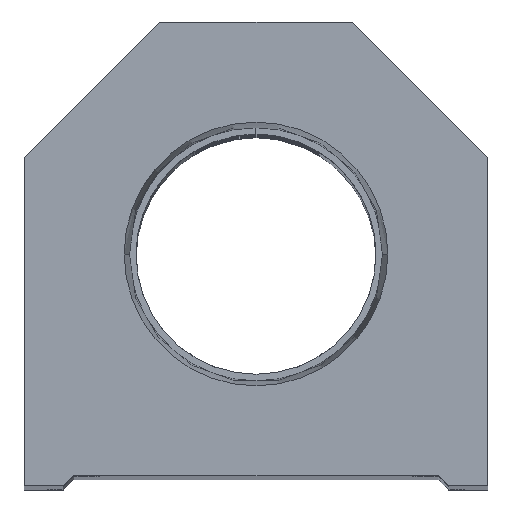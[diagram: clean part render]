
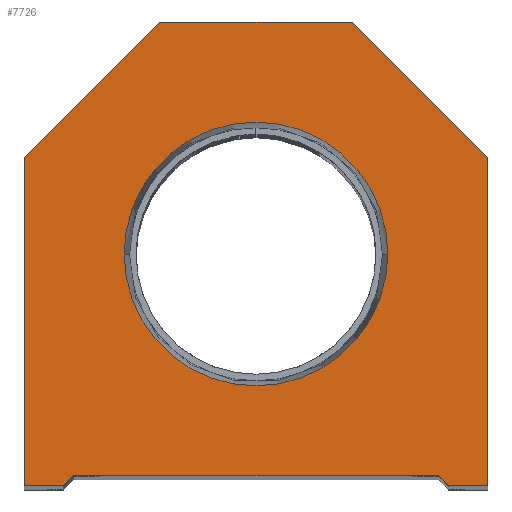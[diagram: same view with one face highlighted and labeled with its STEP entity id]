
A CAD part, top view. The second image highlights one B-rep face of the part: STEP entity #7726.
In plain terms, the highlighted planar face has unit normal (0, 0, 1).
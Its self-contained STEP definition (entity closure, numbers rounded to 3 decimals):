
#3 = CIRCLE ( 'NONE', #5110, 12.647 ) ;
#599 = CARTESIAN_POINT ( 'NONE',  ( 22.25, 0., 0. ) ) ;
#605 = FACE_BOUND ( 'NONE', #15569, .T. ) ;
#693 = ORIENTED_EDGE ( 'NONE', *, *, #7482, .T. ) ;
#792 = VECTOR ( 'NONE', #9333, 1000. ) ;
#1219 = EDGE_CURVE ( 'NONE', #14353, #14734, #13792, .T. ) ;
#1255 = LINE ( 'NONE', #6683, #11766 ) ;
#1603 = VECTOR ( 'NONE', #2753, 1000. ) ;
#1627 = VERTEX_POINT ( 'NONE', #8988 ) ;
#1739 = DIRECTION ( 'NONE',  ( 1., 0., 0. ) ) ;
#1835 = CARTESIAN_POINT ( 'NONE',  ( 9.25, 9.25, 0. ) ) ;
#1952 = CARTESIAN_POINT ( 'NONE',  ( 22.25, 0., 0. ) ) ;
#2162 = DIRECTION ( 'NONE',  ( 0., -1., 0. ) ) ;
#2272 = FACE_OUTER_BOUND ( 'NONE', #13198, .T. ) ;
#2358 = DIRECTION ( 'NONE',  ( 1., 0., 0. ) ) ;
#2564 = VECTOR ( 'NONE', #5935, 1000. ) ;
#2753 = DIRECTION ( 'NONE',  ( 1., 0., 0. ) ) ;
#2767 = DIRECTION ( 'NONE',  ( 1., 0., 0. ) ) ;
#2785 = DIRECTION ( 'NONE',  ( -0.707, 0.707, 0. ) ) ;
#2849 = ORIENTED_EDGE ( 'NONE', *, *, #1219, .T. ) ;
#2855 = AXIS2_PLACEMENT_3D ( 'NONE', #11738, #3606, #2358 ) ;
#2915 = LINE ( 'NONE', #5754, #2564 ) ;
#3258 = EDGE_CURVE ( 'NONE', #4635, #10632, #15275, .T. ) ;
#3331 = ORIENTED_EDGE ( 'NONE', *, *, #5513, .T. ) ;
#3606 = DIRECTION ( 'NONE',  ( 0., 0., 1. ) ) ;
#4075 = CARTESIAN_POINT ( 'NONE',  ( 9.25, 44.5, 0. ) ) ;
#4217 = EDGE_CURVE ( 'NONE', #15020, #13432, #16037, .T. ) ;
#4315 = CARTESIAN_POINT ( 'NONE',  ( -22.25, 31.5, 0. ) ) ;
#4465 = CARTESIAN_POINT ( 'NONE',  ( -22.25, 0., 0. ) ) ;
#4635 = VERTEX_POINT ( 'NONE', #7348 ) ;
#5079 = EDGE_CURVE ( 'NONE', #8772, #7157, #3, .T. ) ;
#5110 = AXIS2_PLACEMENT_3D ( 'NONE', #9687, #16460, #2767 ) ;
#5277 = CARTESIAN_POINT ( 'NONE',  ( 22.25, 31.5, 0. ) ) ;
#5513 = EDGE_CURVE ( 'NONE', #17018, #1627, #11198, .T. ) ;
#5604 = VECTOR ( 'NONE', #1739, 1000. ) ;
#5754 = CARTESIAN_POINT ( 'NONE',  ( -9.25, 9.25, 0. ) ) ;
#5935 = DIRECTION ( 'NONE',  ( 0.707, 0.707, 0. ) ) ;
#6168 = CARTESIAN_POINT ( 'NONE',  ( 9.25, 44.5, 0. ) ) ;
#6287 = EDGE_CURVE ( 'NONE', #9124, #4635, #9509, .T. ) ;
#6408 = ORIENTED_EDGE ( 'NONE', *, *, #6287, .T. ) ;
#6560 = DIRECTION ( 'NONE',  ( 1., 0., 0. ) ) ;
#6622 = CARTESIAN_POINT ( 'NONE',  ( 12.647, 22.25, 0. ) ) ;
#6623 = VECTOR ( 'NONE', #9910, 1000. ) ;
#6624 = LINE ( 'NONE', #5277, #15161 ) ;
#6629 = CARTESIAN_POINT ( 'NONE',  ( 18.5, 0., 0. ) ) ;
#6683 = CARTESIAN_POINT ( 'NONE',  ( -22.25, 31.5, 0. ) ) ;
#6779 = ORIENTED_EDGE ( 'NONE', *, *, #15482, .T. ) ;
#6859 = ORIENTED_EDGE ( 'NONE', *, *, #15483, .T. ) ;
#7028 = DIRECTION ( 'NONE',  ( -1., 0., 0. ) ) ;
#7157 = VERTEX_POINT ( 'NONE', #11962 ) ;
#7348 = CARTESIAN_POINT ( 'NONE',  ( 17.5, 1., 0. ) ) ;
#7482 = EDGE_CURVE ( 'NONE', #16921, #9124, #2915, .T. ) ;
#7726 = ADVANCED_FACE ( 'NONE', ( #605, #2272 ), #14128, .T. ) ;
#7906 = EDGE_CURVE ( 'NONE', #7157, #8772, #16411, .T. ) ;
#8177 = CARTESIAN_POINT ( 'NONE',  ( -17.5, 0., 0. ) ) ;
#8275 = CARTESIAN_POINT ( 'NONE',  ( -17.5, 1., 0. ) ) ;
#8772 = VERTEX_POINT ( 'NONE', #6622 ) ;
#8891 = ORIENTED_EDGE ( 'NONE', *, *, #4217, .T. ) ;
#8988 = CARTESIAN_POINT ( 'NONE',  ( 22.25, 31.5, 0. ) ) ;
#9124 = VERTEX_POINT ( 'NONE', #16925 ) ;
#9333 = DIRECTION ( 'NONE',  ( 1., 0., 0. ) ) ;
#9386 = ORIENTED_EDGE ( 'NONE', *, *, #7906, .F. ) ;
#9509 = LINE ( 'NONE', #8275, #792 ) ;
#9687 = CARTESIAN_POINT ( 'NONE',  ( 0., 22.25, 0. ) ) ;
#9905 = DIRECTION ( 'NONE',  ( 0., 1., 0. ) ) ;
#9910 = DIRECTION ( 'NONE',  ( 0.707, -0.707, 0. ) ) ;
#9981 = LINE ( 'NONE', #13841, #5604 ) ;
#10073 = ORIENTED_EDGE ( 'NONE', *, *, #5079, .F. ) ;
#10632 = VERTEX_POINT ( 'NONE', #6629 ) ;
#11082 = ORIENTED_EDGE ( 'NONE', *, *, #3258, .T. ) ;
#11198 = LINE ( 'NONE', #599, #16632 ) ;
#11623 = ORIENTED_EDGE ( 'NONE', *, *, #16539, .T. ) ;
#11738 = CARTESIAN_POINT ( 'NONE',  ( 0., 0., 0. ) ) ;
#11766 = VECTOR ( 'NONE', #12047, 1000. ) ;
#11962 = CARTESIAN_POINT ( 'NONE',  ( -12.647, 22.25, 0. ) ) ;
#12004 = CARTESIAN_POINT ( 'NONE',  ( 0., 22.25, 0. ) ) ;
#12047 = DIRECTION ( 'NONE',  ( -0.707, -0.707, 0. ) ) ;
#12900 = CARTESIAN_POINT ( 'NONE',  ( -9.25, 44.5, 0. ) ) ;
#13198 = EDGE_LOOP ( 'NONE', ( #6859, #693, #6408, #11082, #11623, #3331, #15889, #2849, #6779, #8891 ) ) ;
#13271 = CARTESIAN_POINT ( 'NONE',  ( -18.5, 0., 0. ) ) ;
#13432 = VERTEX_POINT ( 'NONE', #4465 ) ;
#13792 = LINE ( 'NONE', #4075, #16079 ) ;
#13815 = VECTOR ( 'NONE', #2162, 1000. ) ;
#13841 = CARTESIAN_POINT ( 'NONE',  ( 17.5, 0., 0. ) ) ;
#13867 = AXIS2_PLACEMENT_3D ( 'NONE', #12004, #17384, #6560 ) ;
#14128 = PLANE ( 'NONE',  #2855 ) ;
#14278 = CARTESIAN_POINT ( 'NONE',  ( -22.25, 0., 0. ) ) ;
#14353 = VERTEX_POINT ( 'NONE', #6168 ) ;
#14734 = VERTEX_POINT ( 'NONE', #12900 ) ;
#15020 = VERTEX_POINT ( 'NONE', #4315 ) ;
#15161 = VECTOR ( 'NONE', #2785, 1000. ) ;
#15275 = LINE ( 'NONE', #1835, #6623 ) ;
#15482 = EDGE_CURVE ( 'NONE', #14734, #15020, #1255, .T. ) ;
#15483 = EDGE_CURVE ( 'NONE', #13432, #16921, #16272, .T. ) ;
#15569 = EDGE_LOOP ( 'NONE', ( #10073, #9386 ) ) ;
#15883 = EDGE_CURVE ( 'NONE', #1627, #14353, #6624, .T. ) ;
#15889 = ORIENTED_EDGE ( 'NONE', *, *, #15883, .T. ) ;
#16037 = LINE ( 'NONE', #14278, #13815 ) ;
#16079 = VECTOR ( 'NONE', #7028, 1000. ) ;
#16272 = LINE ( 'NONE', #8177, #1603 ) ;
#16411 = CIRCLE ( 'NONE', #13867, 12.647 ) ;
#16460 = DIRECTION ( 'NONE',  ( 0., 0., 1. ) ) ;
#16539 = EDGE_CURVE ( 'NONE', #10632, #17018, #9981, .T. ) ;
#16632 = VECTOR ( 'NONE', #9905, 1000. ) ;
#16921 = VERTEX_POINT ( 'NONE', #13271 ) ;
#16925 = CARTESIAN_POINT ( 'NONE',  ( -17.5, 1., 0. ) ) ;
#17018 = VERTEX_POINT ( 'NONE', #1952 ) ;
#17384 = DIRECTION ( 'NONE',  ( 0., 0., 1. ) ) ;
